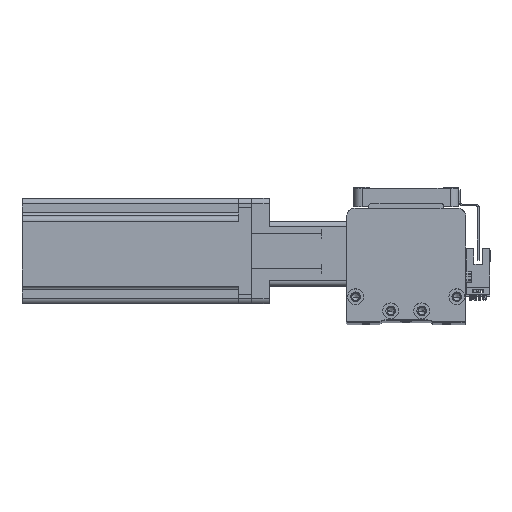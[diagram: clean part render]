
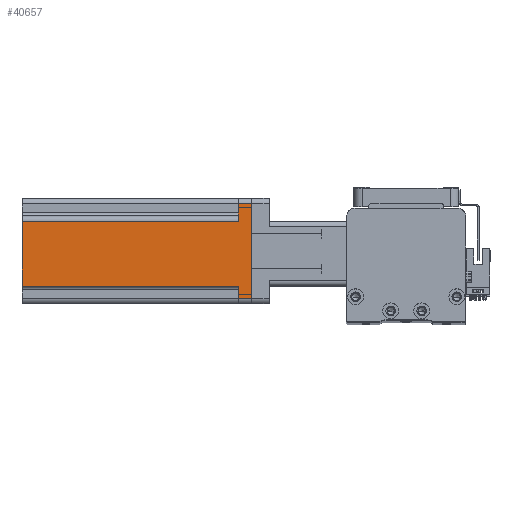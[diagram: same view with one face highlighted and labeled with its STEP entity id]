
A CAD part, top view. The second image highlights one B-rep face of the part: STEP entity #40657.
In plain terms, the highlighted planar face has unit normal (0, 0, 1) as drawn and (-1, 0, 0) by its records, which use the part's own axes.
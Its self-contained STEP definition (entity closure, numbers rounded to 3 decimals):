
#79 = VERTEX_POINT ( 'NONE', #10650 ) ;
#1564 = LINE ( 'NONE', #8667, #10757 ) ;
#1880 = VERTEX_POINT ( 'NONE', #9397 ) ;
#1971 = LINE ( 'NONE', #5606, #37966 ) ;
#2155 = CARTESIAN_POINT ( 'NONE',  ( -30., -30., 7.5 ) ) ;
#2172 = CARTESIAN_POINT ( 'NONE',  ( -30., -30., 130.7 ) ) ;
#2248 = VERTEX_POINT ( 'NONE', #21002 ) ;
#2402 = CARTESIAN_POINT ( 'NONE',  ( -30., 30., 7.5 ) ) ;
#2731 = VECTOR ( 'NONE', #18641, 1000. ) ;
#4338 = VERTEX_POINT ( 'NONE', #40248 ) ;
#5505 = PLANE ( 'NONE',  #44382 ) ;
#5606 = CARTESIAN_POINT ( 'NONE',  ( -30., 27., 130.7 ) ) ;
#5651 = DIRECTION ( 'NONE',  ( 0., 0., -1. ) ) ;
#6004 = VECTOR ( 'NONE', #23424, 1000. ) ;
#6188 = ORIENTED_EDGE ( 'NONE', *, *, #23514, .T. ) ;
#6803 = CARTESIAN_POINT ( 'NONE',  ( -30., -17., 130.7 ) ) ;
#6863 = EDGE_LOOP ( 'NONE', ( #31774, #6188, #39813, #37578, #28833, #28591, #20560, #41400 ) ) ;
#7093 = VECTOR ( 'NONE', #13036, 1000. ) ;
#8667 = CARTESIAN_POINT ( 'NONE',  ( -30., 20., 7.5 ) ) ;
#9361 = LINE ( 'NONE', #44167, #18590 ) ;
#9397 = CARTESIAN_POINT ( 'NONE',  ( -30., 20., 130.7 ) ) ;
#10485 = VERTEX_POINT ( 'NONE', #41404 ) ;
#10650 = CARTESIAN_POINT ( 'NONE',  ( -30., -27., 7.5 ) ) ;
#10757 = VECTOR ( 'NONE', #12179, 1000. ) ;
#11041 = EDGE_CURVE ( 'NONE', #10485, #79, #33800, .T. ) ;
#11414 = FACE_OUTER_BOUND ( 'NONE', #6863, .T. ) ;
#11984 = LINE ( 'NONE', #39654, #2731 ) ;
#12179 = DIRECTION ( 'NONE',  ( 0., 0., 1. ) ) ;
#12877 = DIRECTION ( 'NONE',  ( 0., 1., 0. ) ) ;
#13036 = DIRECTION ( 'NONE',  ( 0., -1., 0. ) ) ;
#14228 = EDGE_CURVE ( 'NONE', #44114, #79, #33335, .T. ) ;
#14816 = VECTOR ( 'NONE', #26403, 1000. ) ;
#14945 = EDGE_CURVE ( 'NONE', #2248, #10485, #34923, .T. ) ;
#15181 = VECTOR ( 'NONE', #12877, 1000. ) ;
#16567 = CARTESIAN_POINT ( 'NONE',  ( -30., -27., 130.7 ) ) ;
#18590 = VECTOR ( 'NONE', #19592, 1000. ) ;
#18641 = DIRECTION ( 'NONE',  ( 0., -1., 0. ) ) ;
#19433 = VERTEX_POINT ( 'NONE', #21420 ) ;
#19592 = DIRECTION ( 'NONE',  ( 0., 0., 1. ) ) ;
#20560 = ORIENTED_EDGE ( 'NONE', *, *, #14945, .T. ) ;
#21002 = CARTESIAN_POINT ( 'NONE',  ( -30., 27., 0. ) ) ;
#21420 = CARTESIAN_POINT ( 'NONE',  ( -30., 27., 7.5 ) ) ;
#23424 = DIRECTION ( 'NONE',  ( 0., 0., 1. ) ) ;
#23514 = EDGE_CURVE ( 'NONE', #44114, #41546, #9361, .T. ) ;
#26403 = DIRECTION ( 'NONE',  ( 0., -1., 0. ) ) ;
#26417 = DIRECTION ( 'NONE',  ( 1., 0., 0. ) ) ;
#28290 = EDGE_CURVE ( 'NONE', #4338, #1880, #1564, .T. ) ;
#28591 = ORIENTED_EDGE ( 'NONE', *, *, #44686, .T. ) ;
#28833 = ORIENTED_EDGE ( 'NONE', *, *, #30431, .T. ) ;
#29818 = CARTESIAN_POINT ( 'NONE',  ( -30., -17., 7.5 ) ) ;
#30084 = DIRECTION ( 'NONE',  ( 0., 0., -1. ) ) ;
#30431 = EDGE_CURVE ( 'NONE', #4338, #19433, #33689, .T. ) ;
#31774 = ORIENTED_EDGE ( 'NONE', *, *, #14228, .F. ) ;
#33335 = LINE ( 'NONE', #2155, #14816 ) ;
#33689 = LINE ( 'NONE', #2402, #15181 ) ;
#33800 = LINE ( 'NONE', #16567, #6004 ) ;
#34923 = LINE ( 'NONE', #37441, #7093 ) ;
#36960 = EDGE_CURVE ( 'NONE', #1880, #41546, #11984, .T. ) ;
#37441 = CARTESIAN_POINT ( 'NONE',  ( -30., -30., 0. ) ) ;
#37578 = ORIENTED_EDGE ( 'NONE', *, *, #28290, .F. ) ;
#37966 = VECTOR ( 'NONE', #30084, 1000. ) ;
#39654 = CARTESIAN_POINT ( 'NONE',  ( -30., -30., 130.7 ) ) ;
#39813 = ORIENTED_EDGE ( 'NONE', *, *, #36960, .F. ) ;
#40248 = CARTESIAN_POINT ( 'NONE',  ( -30., 20., 7.5 ) ) ;
#40657 = ADVANCED_FACE ( 'NONE', ( #11414 ), #5505, .F. ) ;
#41400 = ORIENTED_EDGE ( 'NONE', *, *, #11041, .T. ) ;
#41404 = CARTESIAN_POINT ( 'NONE',  ( -30., -27., 0. ) ) ;
#41546 = VERTEX_POINT ( 'NONE', #6803 ) ;
#44114 = VERTEX_POINT ( 'NONE', #29818 ) ;
#44167 = CARTESIAN_POINT ( 'NONE',  ( -30., -17., 130.7 ) ) ;
#44382 = AXIS2_PLACEMENT_3D ( 'NONE', #2172, #26417, #5651 ) ;
#44686 = EDGE_CURVE ( 'NONE', #19433, #2248, #1971, .T. ) ;
